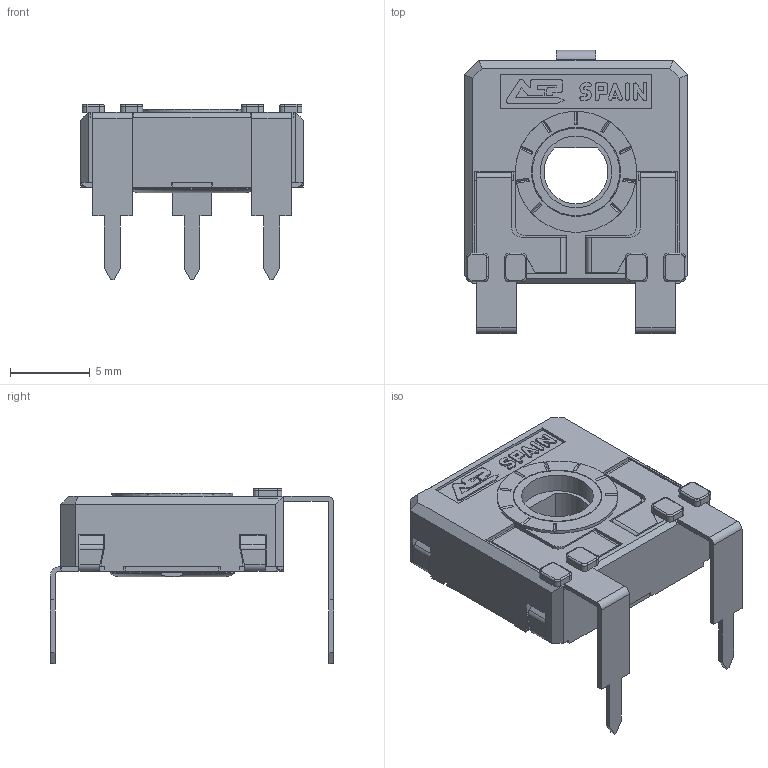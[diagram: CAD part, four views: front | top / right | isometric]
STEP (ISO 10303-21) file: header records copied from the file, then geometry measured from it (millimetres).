
FILE_DESCRIPTION(/* description */ (''),/* implementation_level */ '2;1');
FILE_NAME(/* name */ 'C:\Users\CEM\Desktop\ENVIAR\TRANSICION 3D CATALOGOS\RS14FV17,5 RT-RO.stp',/* time_stamp */ '2025-12-10T10:39:21+01:00',/* author */ ('CEM'),/* organization */ (''),/* preprocessor_version */ 'ST-DEVELOPER v16.13',/* originating_system */ 'Autodesk Inventor 2018',/* authorisation */ '');
FILE_SCHEMA (('AUTOMOTIVE_DESIGN { 1 0 10303 214 3 1 1 }'));
Length unit declared in the file: millimetre
Products named in the file (1): CARCASA CA14 PGA
Bounding box: 14 x 17.8 x 11 mm (x, y, z)
Volume: 528.5 mm3; surface area: 1499 mm2
Topology: 1 solids, 1 shells, 665 faces, 1870 edges, 1202 vertices
Faces by surface type: plane 492, cylinder 136, torus 23, bspline 8, cone 6
Full cylindrical faces by diameter (mm): 4.5 x1, 5.5 x1, 5.6 x1, 5.752 x1, 6.8 x1, 7.6 x1
Entity records: 21513 total; most frequent: CARTESIAN_POINT 3932, ORIENTED_EDGE 3712, DIRECTION 3502, EDGE_CURVE 1856, LINE 1470, VECTOR 1470, VERTEX_POINT 1198, AXIS2_PLACEMENT_3D 1016
